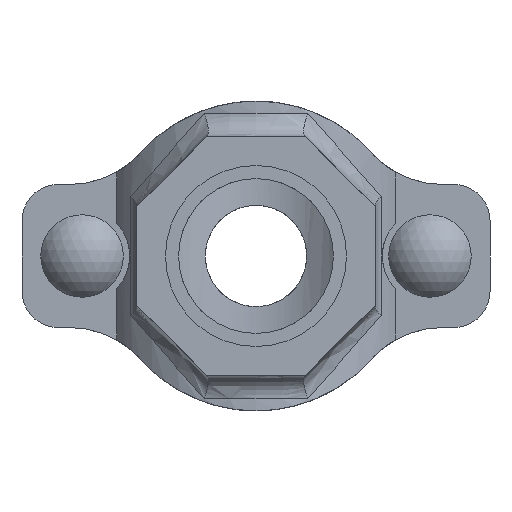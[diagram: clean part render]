
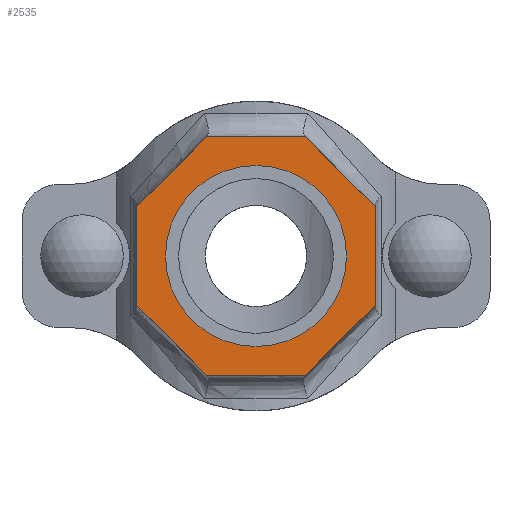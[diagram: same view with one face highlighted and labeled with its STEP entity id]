
A CAD part, front view. The second image highlights one B-rep face of the part: STEP entity #2535.
In plain terms, the highlighted planar face has unit normal (0, -1, 0) as drawn and (0, 1, 0) by its records, which use the part's own axes.
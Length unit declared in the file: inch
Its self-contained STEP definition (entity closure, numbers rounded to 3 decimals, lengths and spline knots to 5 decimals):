
#182=FACE_BOUND('',#451,.T.);
#299=FACE_OUTER_BOUND('',#450,.T.);
#450=EDGE_LOOP('',(#2116,#2117,#2118,#2119,#2120,#2121,#2122,#2123));
#451=EDGE_LOOP('',(#2124));
#590=LINE('',#4627,#776);
#593=LINE('',#4632,#779);
#595=LINE('',#4636,#781);
#597=LINE('',#4640,#783);
#630=LINE('',#5006,#816);
#632=LINE('',#5010,#818);
#634=LINE('',#5014,#820);
#636=LINE('',#5017,#822);
#776=VECTOR('',#3282,0.3937);
#779=VECTOR('',#3287,0.3937);
#781=VECTOR('',#3291,0.3937);
#783=VECTOR('',#3295,0.3937);
#816=VECTOR('',#3414,0.3937);
#818=VECTOR('',#3418,0.3937);
#820=VECTOR('',#3422,0.3937);
#822=VECTOR('',#3426,0.3937);
#915=CIRCLE('',#2803,0.95);
#1097=VERTEX_POINT('',#4624);
#1098=VERTEX_POINT('',#4626);
#1099=VERTEX_POINT('',#4630);
#1100=VERTEX_POINT('',#4634);
#1101=VERTEX_POINT('',#4638);
#1138=VERTEX_POINT('',#4900);
#1153=VERTEX_POINT('',#5005);
#1154=VERTEX_POINT('',#5009);
#1155=VERTEX_POINT('',#5013);
#1408=EDGE_CURVE('',#1098,#1097,#590,.T.);
#1411=EDGE_CURVE('',#1097,#1099,#593,.T.);
#1413=EDGE_CURVE('',#1099,#1100,#595,.T.);
#1415=EDGE_CURVE('',#1100,#1101,#597,.T.);
#1464=EDGE_CURVE('',#1138,#1138,#915,.T.);
#1483=EDGE_CURVE('',#1153,#1098,#630,.T.);
#1485=EDGE_CURVE('',#1154,#1153,#632,.T.);
#1487=EDGE_CURVE('',#1155,#1154,#634,.T.);
#1489=EDGE_CURVE('',#1101,#1155,#636,.T.);
#2116=ORIENTED_EDGE('',*,*,#1489,.T.);
#2117=ORIENTED_EDGE('',*,*,#1487,.T.);
#2118=ORIENTED_EDGE('',*,*,#1485,.T.);
#2119=ORIENTED_EDGE('',*,*,#1483,.T.);
#2120=ORIENTED_EDGE('',*,*,#1408,.T.);
#2121=ORIENTED_EDGE('',*,*,#1411,.T.);
#2122=ORIENTED_EDGE('',*,*,#1413,.T.);
#2123=ORIENTED_EDGE('',*,*,#1415,.T.);
#2124=ORIENTED_EDGE('',*,*,#1464,.T.);
#2278=PLANE('',#2820);
#2535=ADVANCED_FACE('',(#299,#182),#2278,.T.);
#2803=AXIS2_PLACEMENT_3D('',#4901,#3378,#3379);
#2820=AXIS2_PLACEMENT_3D('',#5018,#3427,#3428);
#3282=DIRECTION('',(0.,0.,1.));
#3287=DIRECTION('',(0.707,0.,0.707));
#3291=DIRECTION('',(1.,0.,0.));
#3295=DIRECTION('',(0.707,0.,-0.707));
#3378=DIRECTION('center_axis',(0.,-1.,0.));
#3379=DIRECTION('ref_axis',(-1.,0.,0.));
#3414=DIRECTION('',(-0.707,0.,0.707));
#3418=DIRECTION('',(-1.,0.,0.));
#3422=DIRECTION('',(-0.707,0.,-0.707));
#3426=DIRECTION('',(0.,0.,-1.));
#3427=DIRECTION('center_axis',(0.,1.,0.));
#3428=DIRECTION('ref_axis',(0.,0.,1.));
#4624=CARTESIAN_POINT('',(-1.25,2.75,0.51777));
#4626=CARTESIAN_POINT('',(-1.25,2.75,-0.51777));
#4627=CARTESIAN_POINT('',(-1.25,2.75,0.51777));
#4630=CARTESIAN_POINT('',(-0.51777,2.75,1.25));
#4632=CARTESIAN_POINT('',(-0.51777,2.75,1.25));
#4634=CARTESIAN_POINT('',(0.51777,2.75,1.25));
#4636=CARTESIAN_POINT('',(0.51777,2.75,1.25));
#4638=CARTESIAN_POINT('',(1.25,2.75,0.51777));
#4640=CARTESIAN_POINT('',(1.25,2.75,0.51777));
#4900=CARTESIAN_POINT('',(0.95,2.75,0.));
#4901=CARTESIAN_POINT('Origin',(0.,2.75,0.));
#5005=CARTESIAN_POINT('',(-0.51777,2.75,-1.25));
#5006=CARTESIAN_POINT('',(-1.25,2.75,-0.51777));
#5009=CARTESIAN_POINT('',(0.51777,2.75,-1.25));
#5010=CARTESIAN_POINT('',(-0.51777,2.75,-1.25));
#5013=CARTESIAN_POINT('',(1.25,2.75,-0.51777));
#5014=CARTESIAN_POINT('',(0.51777,2.75,-1.25));
#5017=CARTESIAN_POINT('',(1.25,2.75,-0.51777));
#5018=CARTESIAN_POINT('Origin',(0.,2.75,0.));
